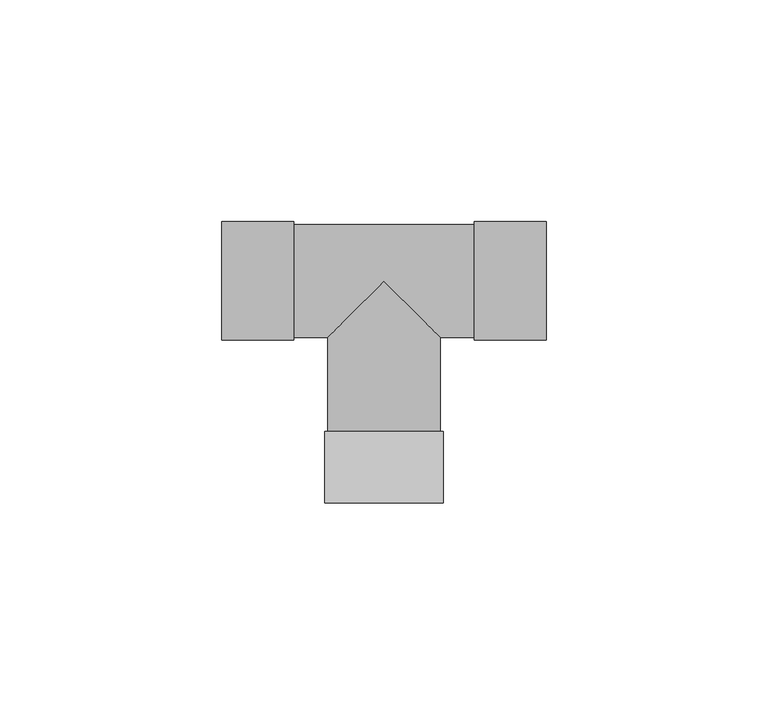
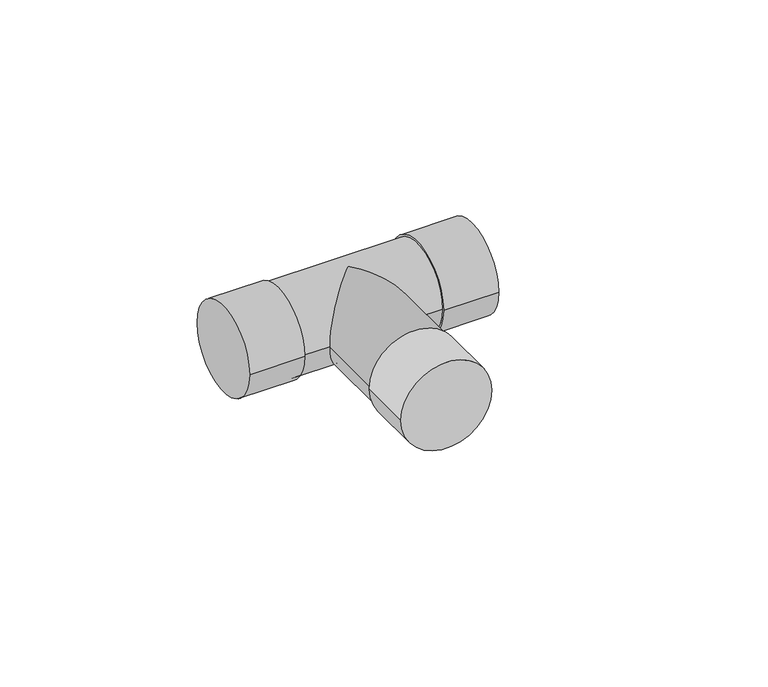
"""IFC4 building model written with IfcOpenShell, lengths in millimetres: pipe fitting geometry, Tê - Soldado - CU : Padrão."""

from ifc_helpers import new_model, si_unit, frame, origin, place, context, project, spatial, circle_curve, ellipse_curve, source, transform, mapped, element, save
from ifc_brep_helpers import plane_surface, cylinder_surface, advanced_brep


def pipe_fitting_8941d552(model_context):
    return source(origin(), model_context, "Body", "AdvancedBrep", [
        advanced_brep(
        [(13.3265065, -50.0413326, 0.0), (-13.3214935, -50.0426673, 0.0), (13.3256977, -33.8933326, 0.0), (-13.3223023, -33.8946673, 0.0), (12.7016977, -33.8933638, 0.0), (-12.6983023, -33.8946361, 0.0), (-36.5, -13.324, 0.0), (-36.5, 13.324, 0.0), (-20.352, -13.324, 0.0), (-20.352, 13.324, 0.0), (-20.352, -12.7, 0.0), (-20.352, 12.7, 0.0), (20.352, 12.7, 0.0), (-12.6993639, -12.7, 0.0), (0.0, 0.0, 12.7), (12.7006361, -12.7, 0.0), (20.352, -12.7, 0.0), (0.0, 0.0, -12.7), (20.352, -13.324, 0.0), (20.352, 13.324, 0.0), (36.5, -13.324, 0.0), (36.5, 13.324, 0.0)],
        [
            (0, 1, circle_curve(frame((0.0025065, -50.0419999, 0.0), z_axis=(5.0087572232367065e-05, -0.9999999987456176, 0.0), x_axis=(-0.9999999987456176, -5.0087572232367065e-05, 0.0)), 13.324)),
            (1, 0, circle_curve(frame((0.0025065, -50.0419999, 0.0), z_axis=(5.0087572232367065e-05, -0.9999999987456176, 0.0), x_axis=(-0.9999999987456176, -5.0087572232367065e-05, 0.0)), 13.324)),
            (2, 3, circle_curve(frame((0.0016977, -33.894, 0.0), z_axis=(-5.0087572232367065e-05, 0.9999999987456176, 0.0), x_axis=(-0.9999999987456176, -5.0087572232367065e-05, 0.0)), 13.324)),
            (3, 2, circle_curve(frame((0.0016977, -33.894, 0.0), z_axis=(-5.0087572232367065e-05, 0.9999999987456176, 0.0), x_axis=(-0.9999999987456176, -5.0087572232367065e-05, 0.0)), 13.324)),
            (4, 5, circle_curve(frame((0.0016977, -33.894, 0.0), z_axis=(5.0087572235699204e-05, -0.9999999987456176, 0.0), x_axis=(0.9999999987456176, 5.0087572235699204e-05, 0.0)), 12.7)),
            (5, 4, circle_curve(frame((0.0016977, -33.894, 0.0), z_axis=(5.0087572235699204e-05, -0.9999999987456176, 0.0), x_axis=(0.9999999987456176, 5.0087572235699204e-05, 0.0)), 12.7)),
            (0, 2),
            (3, 1),
            (6, 7, circle_curve(frame((-36.5, 0.0, 0.0), z_axis=(-1.0, 0.0, 0.0), x_axis=(0.0, 1.0, 0.0)), 13.324)),
            (7, 6, circle_curve(frame((-36.5, 0.0, 0.0), z_axis=(-1.0, 0.0, 0.0), x_axis=(0.0, 1.0, 0.0)), 13.324)),
            (8, 9, circle_curve(frame((-20.352, 0.0, 0.0), z_axis=(1.0, 0.0, 0.0), x_axis=(0.0, 1.0, 0.0)), 13.324)),
            (9, 8, circle_curve(frame((-20.352, 0.0, 0.0), z_axis=(1.0, 0.0, 0.0), x_axis=(0.0, 1.0, 0.0)), 13.324)),
            (10, 11, circle_curve(frame((-20.352, 0.0, 0.0), z_axis=(-1.0, 0.0, 0.0), x_axis=(0.0, 1.0, 0.0)), 12.7)),
            (11, 10, circle_curve(frame((-20.352, 0.0, 0.0), z_axis=(-1.0, 0.0, 0.0), x_axis=(0.0, 1.0, 0.0)), 12.7)),
            (6, 8),
            (9, 7),
            (12, 11),
            (10, 13),
            (13, 14, ellipse_curve(frame((0.0, 0.0, 0.0), z_axis=(-0.7071244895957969, 0.7070890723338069, 0.0), x_axis=(-0.707089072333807, -0.707124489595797, 0.0)), 17.9600625, 12.7)),
            (14, 15, ellipse_curve(frame((0.0, 0.0, 0.0), z_axis=(0.7070890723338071, 0.707124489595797, 0.0), x_axis=(-0.7071244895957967, 0.7070890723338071, 0.0)), 17.9609621, 12.7)),
            (15, 16),
            (16, 12, circle_curve(frame((20.352, 0.0, 0.0), z_axis=(-1.0, 0.0, 0.0), x_axis=(0.0, 1.0, 0.0)), 12.7)),
            (12, 16, circle_curve(frame((20.352, 0.0, 0.0), z_axis=(-1.0, 0.0, 0.0), x_axis=(0.0, 1.0, 0.0)), 12.7)),
            (15, 17, ellipse_curve(frame((0.0, 0.0, 0.0), z_axis=(0.7070890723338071, 0.707124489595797, 0.0), x_axis=(-0.7071244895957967, 0.7070890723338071, 0.0)), 17.9609621, 12.7)),
            (17, 13, ellipse_curve(frame((0.0, 0.0, 0.0), z_axis=(-0.7071244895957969, 0.7070890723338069, 0.0), x_axis=(-0.707089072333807, -0.707124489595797, 0.0)), 17.9600625, 12.7)),
            (18, 19, circle_curve(frame((20.352, 0.0, 0.0), z_axis=(-1.0, 0.0, 0.0), x_axis=(0.0, 1.0, 0.0)), 13.324)),
            (19, 18, circle_curve(frame((20.352, 0.0, 0.0), z_axis=(-1.0, 0.0, 0.0), x_axis=(0.0, 1.0, 0.0)), 13.324)),
            (20, 21, circle_curve(frame((36.5, 0.0, 0.0), z_axis=(1.0, 0.0, 0.0), x_axis=(0.0, 1.0, 0.0)), 13.324)),
            (21, 20, circle_curve(frame((36.5, 0.0, 0.0), z_axis=(1.0, 0.0, 0.0), x_axis=(0.0, 1.0, 0.0)), 13.324)),
            (18, 20),
            (21, 19),
            (4, 15),
            (13, 5),
        ],
        [
            plane_surface(frame((0.0025065, -50.0419999, 0.0), z_axis=(5.008757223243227e-05, -0.9999999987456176, 0.0), x_axis=(0.0, 0.0, 1.0))),
            plane_surface(frame((0.0016977, -33.894, 0.0), z_axis=(-5.008757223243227e-05, 0.9999999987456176, 0.0), x_axis=(0.0, 0.0, 1.0))),
            cylinder_surface(frame((0.0025065, -50.0419999, 0.0), z_axis=(5.0087572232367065e-05, -0.9999999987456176, 0.0), x_axis=(-0.9999999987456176, -5.0087572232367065e-05, 0.0)), 13.324),
            plane_surface(frame((-36.5, 0.0, 0.0), z_axis=(-1.0, 0.0, 0.0), x_axis=(0.0, 0.0, 1.0))),
            plane_surface(frame((-20.352, 0.0, 0.0), z_axis=(1.0, 0.0, 0.0), x_axis=(0.0, 0.0, 1.0))),
            cylinder_surface(frame((-36.5, 0.0, 0.0), z_axis=(-1.0, 0.0, 0.0), x_axis=(0.0, 1.0, 0.0)), 13.324),
            cylinder_surface(frame((-20.352, 0.0, 0.0), z_axis=(-1.0, 0.0, 0.0), x_axis=(0.0, 1.0, 0.0)), 12.7),
            plane_surface(frame((20.352, 0.0, 0.0), z_axis=(-1.0, 0.0, 0.0), x_axis=(0.0, 0.0, 1.0))),
            plane_surface(frame((36.5, 0.0, 0.0), z_axis=(1.0, 0.0, 0.0), x_axis=(0.0, 0.0, 1.0))),
            cylinder_surface(frame((20.352, 0.0, 0.0), z_axis=(-1.0, 0.0, 0.0), x_axis=(0.0, 1.0, 0.0)), 13.324),
            cylinder_surface(frame((0.0, 0.0, 0.0), z_axis=(-5.0087572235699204e-05, 0.9999999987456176, 0.0), x_axis=(0.9999999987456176, 5.0087572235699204e-05, 0.0)), 12.7),
        ],
        [
            (0, [[1, 2]]),
            (1, [[3, 4], [5, 6]]),
            (2, [[-1, 7, -4, 8]]),
            (2, [[-2, -8, -3, -7]]),
            (3, [[9, 10]]),
            (4, [[11, 12], [13, 14]]),
            (5, [[-9, 15, -12, 16]]),
            (5, [[-10, -16, -11, -15]]),
            (6, [[17, -13, 18, 19, 20, 21, 22]]),
            (6, [[-17, 23, -21, 24, 25, -18, -14]]),
            (7, [[26, 27], [-22, -23]]),
            (8, [[28, 29]]),
            (9, [[-26, 30, -29, 31]]),
            (9, [[-27, -31, -28, -30]]),
            (10, [[32, -20, -19, 33, -5]]),
            (10, [[-32, -6, -33, -25, -24]]),
        ],
    ),
    ])


if __name__ == "__main__":
    model = new_model("IFC4")
    model_context = context("Model", 3, world=origin())
    ifc_project = project(units=[si_unit("LENGTHUNIT", "METRE", prefix="MILLI")], contexts=[model_context])
    site = spatial("IfcSite", under=ifc_project)
    building = spatial("IfcBuilding", under=site)
    placement = place(None, origin())
    pipe_fitting_shape = pipe_fitting_8941d552(model_context)
    element("IfcPipeFitting", 1, ObjectType="Tê - Soldado - CU : Padrão", at=placement, inside=building, context=model_context, shape_type="MappedRepresentation", body=[
        mapped(pipe_fitting_shape, transform((0.0, 0.0, 0.0), x_axis=(1.0, 0.0, 0.0), y_axis=(0.0, 1.0, 0.0), z_axis=(0.0, 0.0, 1.0))),
    ])
    save(model, "model.ifc")
